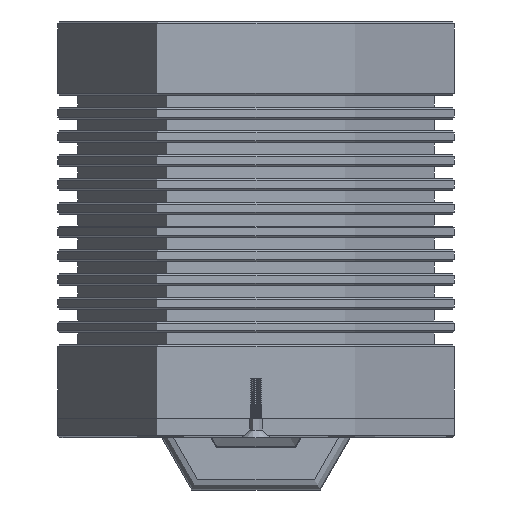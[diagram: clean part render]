
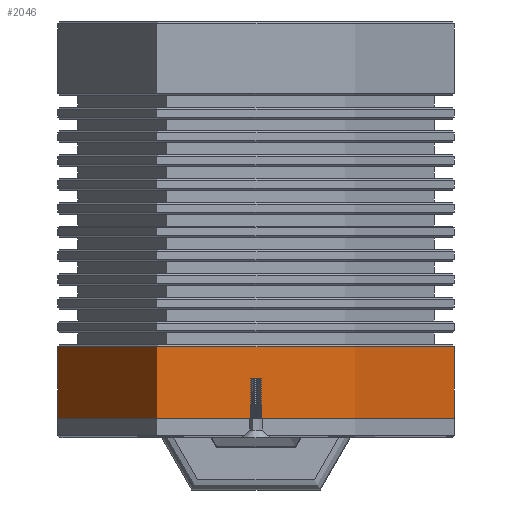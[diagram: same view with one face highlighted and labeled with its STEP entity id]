
A CAD part, front view. The second image highlights one B-rep face of the part: STEP entity #2046.
In plain terms, the highlighted cylindrical face has radius 50 mm (diameter 100 mm), a partial arc.
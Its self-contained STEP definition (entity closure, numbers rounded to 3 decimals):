
#2046=ADVANCED_FACE('',(#4287),#4288,.T.);
#4287=FACE_OUTER_BOUND('',#11556,.T.);
#4288=CYLINDRICAL_SURFACE('',#11557,50.0);
#11556=EDGE_LOOP('',(#17076,#17077,#17078,#17079));
#11557=AXIS2_PLACEMENT_3D('',#17080,#17081,#17082);
#17076=ORIENTED_EDGE('',*,*,#18641,.T.);
#17077=ORIENTED_EDGE('',*,*,#20774,.F.);
#17078=ORIENTED_EDGE('',*,*,#18643,.T.);
#17079=ORIENTED_EDGE('',*,*,#20775,.T.);
#17080=CARTESIAN_POINT('',(0.0,0.0,0.));
#17081=DIRECTION('',(-0.0,-0.0,-1.0));
#17082=DIRECTION('',(1.0,0.0,0.0));
#18641=EDGE_CURVE('',#21120,#21121,#21122,.T.);
#18643=EDGE_CURVE('',#21125,#21123,#21126,.T.);
#20774=EDGE_CURVE('',#21125,#21121,#24086,.T.);
#20775=EDGE_CURVE('',#21123,#21120,#24087,.T.);
#21120=VERTEX_POINT('',#24449);
#21121=VERTEX_POINT('',#24450);
#21122=LINE('',#24451,#24452);
#21123=VERTEX_POINT('',#24453);
#21125=VERTEX_POINT('',#24455);
#21126=LINE('',#24456,#24457);
#24086=CIRCLE('',#38357,50.0);
#24087=CIRCLE('',#38358,50.0);
#24449=CARTESIAN_POINT('',(50.0,0.0,0.));
#24450=CARTESIAN_POINT('',(50.0,0.,18.0));
#24451=CARTESIAN_POINT('',(50.0,0.,0.));
#24452=VECTOR('',#38727,1.0);
#24453=CARTESIAN_POINT('',(-50.0,0.,0.));
#24455=CARTESIAN_POINT('',(-50.0,0.,18.0));
#24456=CARTESIAN_POINT('',(-50.0,0.,0.));
#24457=VECTOR('',#38731,1.0);
#38357=AXIS2_PLACEMENT_3D('',#41664,#41665,#41666);
#38358=AXIS2_PLACEMENT_3D('',#41667,#41668,#41669);
#38727=DIRECTION('',(0.0,0.0,1.0));
#38731=DIRECTION('',(-0.0,-0.0,-1.0));
#41664=CARTESIAN_POINT('',(0.0,0.,18.0));
#41665=DIRECTION('',(0.0,0.,1.0));
#41666=DIRECTION('',(-1.0,0.0,0.0));
#41667=CARTESIAN_POINT('',(0.0,0.0,0.));
#41668=DIRECTION('',(0.0,0.0,1.0));
#41669=DIRECTION('',(1.0,0.0,0.0));
